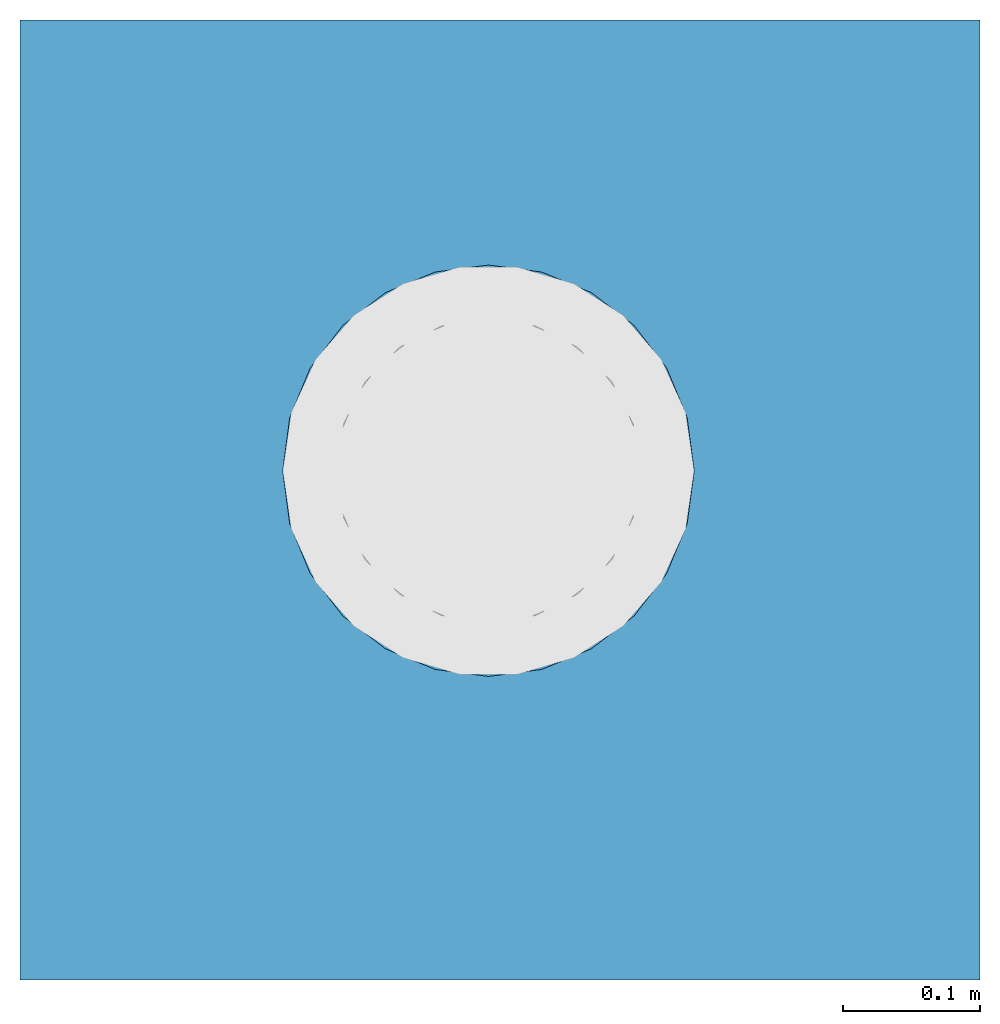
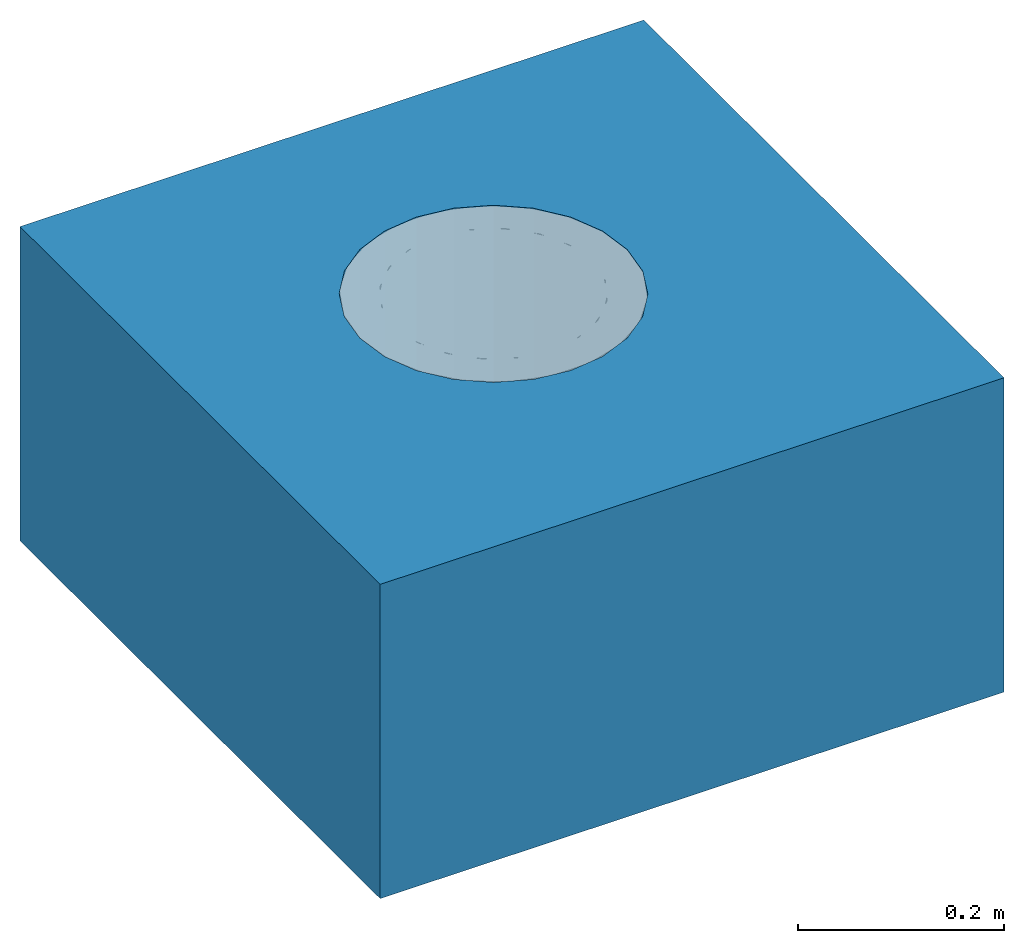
# One storey, incomplete: 1 slab, 1 opening.
"""IFC2X3 building model written with IfcOpenShell, lengths in millimetres."""

from ifc_helpers import new_model, entity, si_unit, converted_unit, derived_unit, direction, frame, frame_2d, origin, place, context, subcontext, project, spatial, rectangle, extrude, faceted_brep, material, layer, layer_set, layer_usage, element, save


model = new_model("IFC2X3")

# Units and contexts
model_context = context("Model", 3, precision=1e-05, world=origin(), true_north=direction((2.0, 6.12303176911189e-17, 1.0)))
context_of_model = context(None, 3, precision=1e-05, world=origin(), true_north=direction((2.0, 6.12303176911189e-17, 1.0)))
body_context = subcontext(model_context, "Body", "Model", "MODEL_VIEW")
ifc_project = project(units=[si_unit("LENGTHUNIT", "METRE", prefix="MILLI"), converted_unit("AREAUNIT", "SQUARE FOOT", entity("IfcRatioMeasure", 0.09290304), si_unit("AREAUNIT", "SQUARE_METRE"), dimensions=[2, 0, 0, 0, 0, 0, 0]), converted_unit("VOLUMEUNIT", "CUBIC FOOT", entity("IfcRatioMeasure", 0.028316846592), si_unit("VOLUMEUNIT", "CUBIC_METRE"), dimensions=[3, 0, 0, 0, 0, 0, 0]), converted_unit("PLANEANGLEUNIT", "DEGREE", entity("IfcRatioMeasure", 0.0174532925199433), si_unit("PLANEANGLEUNIT", "RADIAN"), dimensions=[0, 0, 0, 0, 0, 0, 0]), si_unit("MASSUNIT", "GRAM", prefix="KILO"), si_unit("TIMEUNIT", "SECOND"), si_unit("THERMODYNAMICTEMPERATUREUNIT", "KELVIN"), derived_unit("THERMALTRANSMITTANCEUNIT", [(si_unit("MASSUNIT", "GRAM", prefix="KILO"), 1), (si_unit("THERMODYNAMICTEMPERATUREUNIT", "KELVIN"), -1), (si_unit("TIMEUNIT", "SECOND"), -3)]), derived_unit("VOLUMETRICFLOWRATEUNIT", [(si_unit("LENGTHUNIT", "METRE"), 3), (si_unit("TIMEUNIT", "SECOND"), -1)]), si_unit("POWERUNIT", "WATT")], contexts=[model_context, context_of_model])

# Site, building, storey
site_placement = place(None, origin())
site = spatial("IfcSite", under=ifc_project, at=site_placement, Name="Default", CompositionType="ELEMENT")
building_placement = place(site_placement, origin())
building = spatial("IfcBuilding", under=site, at=building_placement, CompositionType="ELEMENT")
storey_placement = place(building_placement, origin())
storey = spatial("IfcBuildingStorey", under=building, at=storey_placement, Name="Level 1", CompositionType="ELEMENT", Elevation=0.0)

# Slab, opening
ifc_material_1 = material(Name="Plywood, Sheathing")
ifc_layer_1 = layer(ifc_material_1, 68.0)
ifc_material_2 = material(Name="Default Floor")
ifc_layer_2 = layer(ifc_material_2, 304.8)
ifc_layer_set = layer_set([ifc_layer_1, ifc_layer_2], Name="Floor:Generic - 12\"")
ifc_layer_usage = layer_usage(ifc_layer_set, "AXIS3", "POSITIVE", 0.0)
slab_placement = place(storey_placement, frame((-10498.0627721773, 2392.60708548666, -372.8)))
slab = element("IfcSlab", 1, at=slab_placement, inside=storey, material=ifc_layer_usage, Name="Floor:Generic - 12\"", ObjectType="Floor:Generic - 12\"", PredefinedType="FLOOR", context=body_context, shape_type="SweptSolid", body=[
    extrude(rectangle(XDim=700.0, YDim=699.999999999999, at=frame_2d((0.0, 0.0), x_axis=(0.0, -1.0))), frame((350.0, 350.0, 372.8), z_axis=(0.0, 0.0, -1.0), x_axis=(-1.0, 0.0, 0.0)), (0.0, 0.0, 1.0), 372.8),
])
opening_placement = place(slab_placement, frame((189.97754833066, 219.738874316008, 36.799999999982)))
element("IfcOpeningElement", 2, at=opening_placement, cuts=slab, ObjectType="Recess", context=body_context, shape_type="Brep", body=[
    faceted_brep([(226.595272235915, 21.6914616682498, 336.0), (1.5952722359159, 151.595272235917, 336.0), (190.418129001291, 6.70639829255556, 336.0), (301.595272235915, 151.595272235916, 336.0), (257.661289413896, 45.5292550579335, 336.0), (296.484146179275, 112.772415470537, 336.0), (281.499082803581, 76.5952722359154, 336.0), (6.70639829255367, 112.772415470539, 336.0), (151.595272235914, 1.59527223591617, 336.0), (76.595272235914, 21.6914616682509, 336.0), (112.772415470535, 6.7063982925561, 336.0), (21.6914616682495, 76.5952722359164, 336.0), (45.5292550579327, 45.5292550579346, 336.0), (296.484146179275, 190.418129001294, 336.0), (281.499082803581, 226.595272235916, 336.0), (257.661289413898, 257.661289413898, 336.0), (226.595272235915, 281.499082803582, 336.0), (190.418129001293, 296.484146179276, 336.0), (151.595272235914, 301.595272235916, 336.0), (21.6914616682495, 226.595272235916, 336.0), (6.70639829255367, 190.418129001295, 336.0), (45.5292550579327, 257.661289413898, 336.0), (76.5952722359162, 281.499082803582, 336.0), (112.772415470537, 296.484146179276, 336.0), (179.095272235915, 199.226669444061, 98.0), (165.830319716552, 204.721192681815, 98.0), (226.595272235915, 281.499082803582, 98.0), (257.661289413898, 257.661289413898, 98.0), (190.418129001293, 296.484146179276, 98.0), (151.595272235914, 206.595272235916, 98.0), (151.595272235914, 301.595272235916, 98.0), (281.499082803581, 226.595272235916, 98.0), (190.486145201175, 190.486145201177, 98.0), (296.484146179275, 190.418129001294, 98.0), (206.595272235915, 151.595272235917, 98.0), (204.721192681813, 165.830319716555, 98.0), (301.595272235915, 151.595272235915, 98.0), (199.226669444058, 179.095272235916, 98.0), (137.360224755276, 204.721192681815, 98.0), (112.772415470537, 296.484146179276, 98.0), (76.5952722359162, 281.499082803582, 98.0), (124.095272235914, 199.22666944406, 98.0), (112.704399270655, 190.486145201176, 98.0), (45.5292550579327, 257.661289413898, 98.0), (21.6914616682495, 226.595272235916, 98.0), (103.96387502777, 179.095272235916, 98.0), (98.4693517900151, 165.830319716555, 98.0), (6.70639829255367, 190.418129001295, 98.0), (96.5952722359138, 151.595272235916, 98.0), (1.5952722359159, 151.595272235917, 98.0), (296.484146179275, 112.772415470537, 98.0), (204.721192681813, 137.360224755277, 98.0), (199.226669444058, 124.095272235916, 98.0), (281.499082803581, 76.5952722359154, 98.0), (190.486145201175, 112.704399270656, 98.0), (257.661289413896, 45.5292550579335, 98.0), (179.095272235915, 103.963875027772, 98.0), (226.595272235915, 21.6914616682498, 98.0), (165.830319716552, 98.4693517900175, 98.0), (190.418129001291, 6.70639829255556, 98.0), (151.595272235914, 96.5952722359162, 98.0), (151.595272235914, 1.59527223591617, 98.0), (45.5292550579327, 45.5292550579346, 98.0), (103.96387502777, 124.095272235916, 98.0), (112.704399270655, 112.704399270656, 98.0), (6.70639829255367, 112.772415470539, 98.0), (21.6914616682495, 76.5952722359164, 98.0), (98.4693517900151, 137.360224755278, 98.0), (124.095272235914, 103.963875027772, 98.0), (76.595272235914, 21.6914616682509, 98.0), (137.360224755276, 98.4693517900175, 98.0), (112.772415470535, 6.7063982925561, 98.0), (151.595272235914, 206.595272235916, 0.0), (165.830319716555, 204.721192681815, 0.0), (179.095272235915, 199.22666944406, 0.0), (137.360224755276, 204.721192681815, 0.0), (199.226669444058, 179.095272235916, 0.0), (190.486145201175, 190.486145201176, 0.0), (124.095272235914, 103.963875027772, 0.0), (103.96387502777, 179.095272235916, 0.0), (112.704399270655, 190.486145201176, 0.0), (124.095272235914, 199.226669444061, 0.0), (96.5952722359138, 151.595272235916, 0.0), (98.4693517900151, 165.830319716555, 0.0), (103.96387502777, 124.095272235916, 0.0), (206.595272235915, 151.595272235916, 0.0), (204.721192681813, 165.830319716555, 0.0), (204.721192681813, 137.360224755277, 0.0), (199.226669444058, 124.095272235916, 0.0), (179.095272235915, 103.963875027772, 0.0), (151.595272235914, 96.5952722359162, 0.0), (190.486145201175, 112.704399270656, 0.0), (165.830319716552, 98.4693517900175, 0.0), (112.704399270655, 112.704399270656, 0.0), (98.4693517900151, 137.360224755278, 0.0), (137.360224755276, 98.4693517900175, 0.0)], [[[0, 1, 2]], [[3, 0, 4]], [[5, 3, 4]], [[5, 4, 6]], [[7, 2, 1]], [[8, 9, 10]], [[8, 2, 9]], [[9, 11, 12]], [[11, 9, 7]], [[2, 7, 9]], [[13, 0, 3]], [[13, 14, 15]], [[13, 15, 16]], [[16, 17, 18]], [[16, 1, 0]], [[1, 16, 18]], [[1, 19, 20]], [[19, 1, 21]], [[18, 22, 21]], [[21, 1, 18]], [[23, 22, 18]], [[16, 0, 13]], [[24, 25, 26]], [[27, 24, 26]], [[28, 25, 29]], [[25, 28, 26]], [[28, 29, 30]], [[27, 31, 32]], [[33, 34, 35]], [[34, 33, 36]], [[35, 37, 31]], [[24, 27, 32]], [[32, 31, 37]], [[33, 35, 31]], [[30, 38, 39]], [[38, 30, 29]], [[40, 39, 41]], [[40, 42, 43]], [[44, 43, 45]], [[38, 41, 39]], [[46, 44, 45]], [[45, 43, 42]], [[47, 46, 48]], [[47, 44, 46]], [[47, 48, 49]], [[42, 40, 41]], [[36, 50, 51]], [[51, 50, 52]], [[53, 54, 52]], [[55, 56, 54]], [[53, 52, 50]], [[55, 57, 56]], [[56, 57, 58]], [[58, 59, 60]], [[59, 58, 57]], [[60, 59, 61]], [[55, 54, 53]], [[62, 63, 64]], [[65, 63, 66]], [[49, 67, 65]], [[49, 48, 67]], [[65, 67, 63]], [[64, 68, 69]], [[70, 61, 71]], [[61, 70, 60]], [[71, 69, 68]], [[62, 66, 63]], [[64, 69, 62]], [[70, 71, 68]], [[51, 34, 36]], [[7, 65, 66]], [[62, 11, 66]], [[9, 69, 71]], [[62, 69, 12]], [[10, 71, 61]], [[65, 1, 49]], [[65, 7, 1]], [[66, 11, 7]], [[62, 12, 11]], [[9, 12, 69]], [[71, 10, 9]], [[61, 8, 10]], [[2, 59, 57]], [[55, 0, 57]], [[6, 53, 50]], [[55, 53, 4]], [[5, 50, 36]], [[59, 2, 8]], [[57, 0, 2]], [[55, 4, 0]], [[53, 6, 4]], [[5, 6, 50]], [[36, 3, 5]], [[59, 8, 61]], [[36, 33, 13]], [[16, 26, 28]], [[26, 15, 27]], [[17, 28, 30]], [[36, 13, 3]], [[13, 33, 31]], [[13, 31, 14]], [[14, 31, 15]], [[31, 27, 15]], [[16, 15, 26]], [[28, 17, 16]], [[30, 18, 17]], [[23, 39, 40]], [[43, 22, 40]], [[19, 44, 47]], [[43, 44, 21]], [[20, 47, 49]], [[39, 23, 18]], [[40, 22, 23]], [[43, 21, 22]], [[44, 19, 21]], [[20, 19, 47]], [[49, 1, 20]], [[39, 18, 30]], [[72, 73, 74]], [[75, 72, 74]], [[75, 74, 76]], [[76, 74, 77]], [[78, 79, 76]], [[75, 80, 81]], [[75, 76, 80]], [[79, 82, 83]], [[80, 76, 79]], [[79, 84, 82]], [[85, 76, 86]], [[85, 87, 88]], [[85, 88, 89]], [[85, 89, 90]], [[89, 88, 91]], [[90, 89, 92]], [[84, 78, 93]], [[94, 82, 84]], [[78, 90, 95]], [[84, 79, 78]], [[90, 78, 85]], [[76, 85, 78]], [[67, 94, 84]], [[93, 63, 84]], [[68, 78, 95]], [[93, 78, 64]], [[70, 95, 90]], [[94, 48, 82]], [[94, 67, 48]], [[84, 63, 67]], [[93, 64, 63]], [[68, 64, 78]], [[95, 70, 68]], [[90, 60, 70]], [[58, 92, 89]], [[91, 56, 89]], [[52, 88, 87]], [[91, 88, 54]], [[51, 87, 85]], [[92, 58, 60]], [[89, 56, 58]], [[91, 54, 56]], [[88, 52, 54]], [[51, 52, 87]], [[85, 34, 51]], [[92, 60, 90]], [[35, 85, 86]], [[37, 86, 76]], [[24, 74, 73]], [[25, 73, 72]], [[86, 37, 35]], [[35, 34, 85]], [[77, 32, 37]], [[77, 74, 32]], [[32, 74, 24]], [[73, 25, 24]], [[77, 37, 76]], [[72, 29, 25]], [[38, 75, 81]], [[80, 41, 81]], [[45, 79, 83]], [[80, 79, 42]], [[46, 83, 82]], [[75, 38, 29]], [[81, 41, 38]], [[80, 42, 41]], [[79, 45, 42]], [[46, 45, 83]], [[82, 48, 46]], [[75, 29, 72]]]),
])

save(model, "model.ifc")
